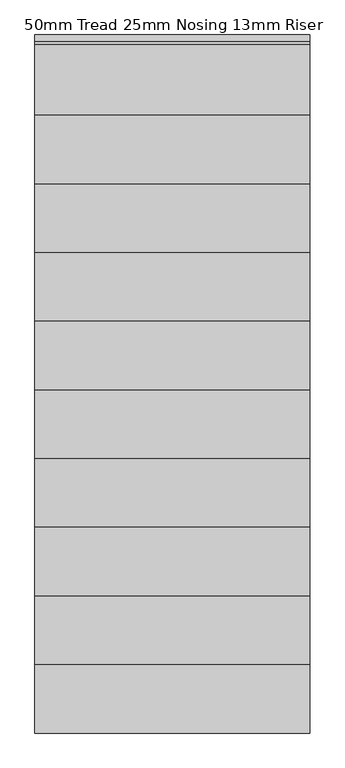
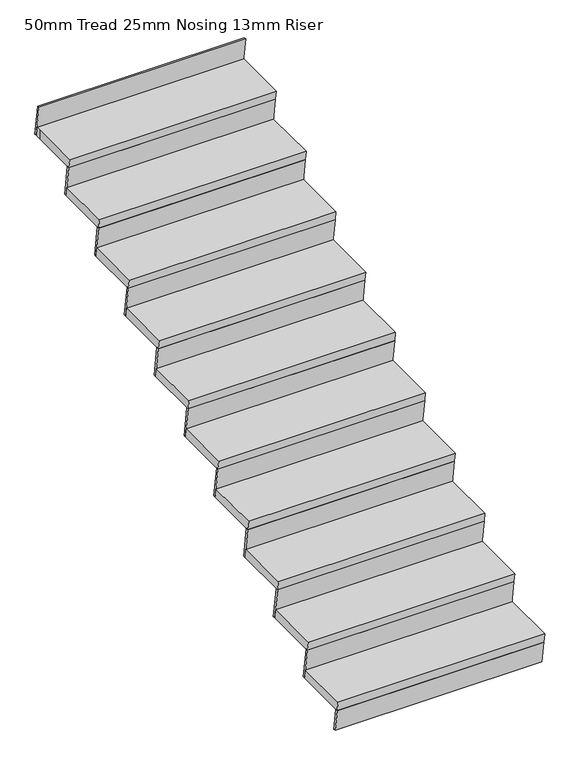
"""IFC4 building model written with IfcOpenShell, lengths in millimetres: stair flight geometry, 50mm Tread 25mm Nosing 13mm Riser."""

from ifc_helpers import new_model, si_unit, origin, place, context, project, spatial, faceted_brep, source, transform, mapped, element, save


def stair_flight_50mm_tread_25mm_nosing_13mm_riser_4ac92de0(model_context):
    return source(origin(), model_context, "Body", "Brep", [
        faceted_brep([(26061.8999097, 27148.5799804, 172.7272727), (26061.8999097, 27155.8168225, 122.7272727), (24961.8999097, 27155.8168225, 122.7272727), (24961.8999097, 27148.5799804, 172.7272727), (24961.8999097, 26848.5799804, 172.7272727), (26061.8999097, 26848.5799804, 172.7272727), (26061.8999097, 26855.8168225, 122.7272727), (24961.8999097, 26855.8168225, 122.7272727)], [[[0, 1, 2, 3]], [[3, 4, 5, 0]], [[2, 1, 6, 7]], [[4, 3, 2, 7]], [[0, 5, 6, 1]], [[5, 4, 7, 6]]]),
        faceted_brep([(26061.8999097, 26855.8168225, 122.7272727), (26061.8999097, 26873.5799804, 0.0), (26061.8999097, 26886.2102315, 0.0), (26061.8999097, 26868.4470736, 122.7272727), (24961.8999097, 26855.8168225, 122.7272727), (24961.8999097, 26868.4470736, 122.7272727), (24961.8999097, 26886.2102315, 0.0), (24961.8999097, 26873.5799804, 0.0)], [[[0, 1, 2, 3]], [[4, 5, 6, 7]], [[1, 0, 4, 7]], [[2, 1, 7, 6]], [[3, 2, 6, 5]], [[0, 3, 5, 4]]]),
        faceted_brep([(26061.8999097, 27130.8168225, 295.4545455), (26061.8999097, 27155.8168225, 122.7272727), (26061.8999097, 27168.4470736, 122.7272727), (26061.8999097, 27143.4470736, 295.4545455), (24961.8999097, 27130.8168225, 295.4545455), (24961.8999097, 27143.4470736, 295.4545455), (24961.8999097, 27168.4470736, 122.7272727), (24961.8999097, 27155.8168225, 122.7272727)], [[[0, 1, 2, 3]], [[4, 5, 6, 7]], [[1, 0, 4, 7]], [[2, 1, 7, 6]], [[3, 2, 6, 5]], [[0, 3, 5, 4]]]),
        faceted_brep([(24961.8999097, 27423.5799804, 345.4545455), (24961.8999097, 27123.5799804, 345.4545455), (26061.8999097, 27123.5799804, 345.4545455), (26061.8999097, 27423.5799804, 345.4545455), (24961.8999097, 27430.8168225, 295.4545455), (26061.8999097, 27430.8168225, 295.4545455), (26061.8999097, 27130.8168225, 295.4545455), (24961.8999097, 27130.8168225, 295.4545455)], [[[0, 1, 2, 3]], [[4, 5, 6, 7]], [[1, 0, 4, 7]], [[3, 2, 6, 5]], [[3, 5, 4, 0]], [[2, 1, 7, 6]]]),
        faceted_brep([(26061.8999097, 27405.8168225, 468.1818182), (26061.8999097, 27430.8168225, 295.4545455), (26061.8999097, 27443.4470736, 295.4545455), (26061.8999097, 27418.4470736, 468.1818182), (24961.8999097, 27405.8168225, 468.1818182), (24961.8999097, 27418.4470736, 468.1818182), (24961.8999097, 27443.4470736, 295.4545455), (24961.8999097, 27430.8168225, 295.4545455)], [[[0, 1, 2, 3]], [[4, 5, 6, 7]], [[1, 0, 4, 7]], [[2, 1, 7, 6]], [[3, 2, 6, 5]], [[0, 3, 5, 4]]]),
        faceted_brep([(24961.8999097, 27698.5799804, 518.1818182), (24961.8999097, 27398.5799804, 518.1818182), (26061.8999097, 27398.5799804, 518.1818182), (26061.8999097, 27698.5799804, 518.1818182), (24961.8999097, 27705.8168225, 468.1818182), (26061.8999097, 27705.8168225, 468.1818182), (26061.8999097, 27405.8168225, 468.1818182), (24961.8999097, 27405.8168225, 468.1818182)], [[[0, 1, 2, 3]], [[4, 5, 6, 7]], [[1, 0, 4, 7]], [[3, 2, 6, 5]], [[3, 5, 4, 0]], [[2, 1, 7, 6]]]),
        faceted_brep([(26061.8999097, 27680.8168225, 640.9090909), (26061.8999097, 27705.8168225, 468.1818182), (26061.8999097, 27718.4470736, 468.1818182), (26061.8999097, 27693.4470736, 640.9090909), (24961.8999097, 27680.8168225, 640.9090909), (24961.8999097, 27693.4470736, 640.9090909), (24961.8999097, 27718.4470736, 468.1818182), (24961.8999097, 27705.8168225, 468.1818182)], [[[0, 1, 2, 3]], [[4, 5, 6, 7]], [[1, 0, 4, 7]], [[2, 1, 7, 6]], [[3, 2, 6, 5]], [[0, 3, 5, 4]]]),
        faceted_brep([(24961.8999097, 27973.5799804, 690.9090909), (24961.8999097, 27673.5799804, 690.9090909), (26061.8999097, 27673.5799804, 690.9090909), (26061.8999097, 27973.5799804, 690.9090909), (24961.8999097, 27980.8168225, 640.9090909), (26061.8999097, 27980.8168225, 640.9090909), (26061.8999097, 27680.8168225, 640.9090909), (24961.8999097, 27680.8168225, 640.9090909)], [[[0, 1, 2, 3]], [[4, 5, 6, 7]], [[1, 0, 4, 7]], [[3, 2, 6, 5]], [[3, 5, 4, 0]], [[2, 1, 7, 6]]]),
        faceted_brep([(26061.8999097, 27955.8168225, 813.6363636), (26061.8999097, 27980.8168225, 640.9090909), (26061.8999097, 27993.4470736, 640.9090909), (26061.8999097, 27968.4470736, 813.6363636), (24961.8999097, 27955.8168225, 813.6363636), (24961.8999097, 27968.4470736, 813.6363636), (24961.8999097, 27993.4470736, 640.9090909), (24961.8999097, 27980.8168225, 640.9090909)], [[[0, 1, 2, 3]], [[4, 5, 6, 7]], [[1, 0, 4, 7]], [[2, 1, 7, 6]], [[3, 2, 6, 5]], [[0, 3, 5, 4]]]),
        faceted_brep([(24961.8999097, 28248.5799804, 863.6363636), (24961.8999097, 27948.5799804, 863.6363636), (26061.8999097, 27948.5799804, 863.6363636), (26061.8999097, 28248.5799804, 863.6363636), (24961.8999097, 28255.8168225, 813.6363636), (26061.8999097, 28255.8168225, 813.6363636), (26061.8999097, 27955.8168225, 813.6363636), (24961.8999097, 27955.8168225, 813.6363636)], [[[0, 1, 2, 3]], [[4, 5, 6, 7]], [[1, 0, 4, 7]], [[3, 2, 6, 5]], [[3, 5, 4, 0]], [[2, 1, 7, 6]]]),
        faceted_brep([(26061.8999097, 28230.8168225, 986.3636364), (26061.8999097, 28255.8168225, 813.6363636), (26061.8999097, 28268.4470736, 813.6363636), (26061.8999097, 28243.4470736, 986.3636364), (24961.8999097, 28230.8168225, 986.3636364), (24961.8999097, 28243.4470736, 986.3636364), (24961.8999097, 28268.4470736, 813.6363636), (24961.8999097, 28255.8168225, 813.6363636)], [[[0, 1, 2, 3]], [[4, 5, 6, 7]], [[1, 0, 4, 7]], [[2, 1, 7, 6]], [[3, 2, 6, 5]], [[0, 3, 5, 4]]]),
        faceted_brep([(24961.8999097, 28523.5799804, 1036.3636364), (24961.8999097, 28223.5799804, 1036.3636364), (26061.8999097, 28223.5799804, 1036.3636364), (26061.8999097, 28523.5799804, 1036.3636364), (24961.8999097, 28530.8168225, 986.3636364), (26061.8999097, 28530.8168225, 986.3636364), (26061.8999097, 28230.8168225, 986.3636364), (24961.8999097, 28230.8168225, 986.3636364)], [[[0, 1, 2, 3]], [[4, 5, 6, 7]], [[1, 0, 4, 7]], [[3, 2, 6, 5]], [[3, 5, 4, 0]], [[2, 1, 7, 6]]]),
        faceted_brep([(26061.8999097, 28505.8168225, 1159.0909091), (26061.8999097, 28530.8168225, 986.3636364), (26061.8999097, 28543.4470736, 986.3636364), (26061.8999097, 28518.4470736, 1159.0909091), (24961.8999097, 28505.8168225, 1159.0909091), (24961.8999097, 28518.4470736, 1159.0909091), (24961.8999097, 28543.4470736, 986.3636364), (24961.8999097, 28530.8168225, 986.3636364)], [[[0, 1, 2, 3]], [[4, 5, 6, 7]], [[1, 0, 4, 7]], [[2, 1, 7, 6]], [[3, 2, 6, 5]], [[0, 3, 5, 4]]]),
        faceted_brep([(24961.8999097, 28798.5799804, 1209.0909091), (24961.8999097, 28498.5799804, 1209.0909091), (26061.8999097, 28498.5799804, 1209.0909091), (26061.8999097, 28798.5799804, 1209.0909091), (24961.8999097, 28805.8168225, 1159.0909091), (26061.8999097, 28805.8168225, 1159.0909091), (26061.8999097, 28505.8168225, 1159.0909091), (24961.8999097, 28505.8168225, 1159.0909091)], [[[0, 1, 2, 3]], [[4, 5, 6, 7]], [[1, 0, 4, 7]], [[3, 2, 6, 5]], [[3, 5, 4, 0]], [[2, 1, 7, 6]]]),
        faceted_brep([(26061.8999097, 28780.8168225, 1331.8181818), (26061.8999097, 28805.8168225, 1159.0909091), (26061.8999097, 28818.4470736, 1159.0909091), (26061.8999097, 28793.4470736, 1331.8181818), (24961.8999097, 28780.8168225, 1331.8181818), (24961.8999097, 28793.4470736, 1331.8181818), (24961.8999097, 28818.4470736, 1159.0909091), (24961.8999097, 28805.8168225, 1159.0909091)], [[[0, 1, 2, 3]], [[4, 5, 6, 7]], [[1, 0, 4, 7]], [[2, 1, 7, 6]], [[3, 2, 6, 5]], [[0, 3, 5, 4]]]),
        faceted_brep([(24961.8999097, 29073.5799804, 1381.8181818), (24961.8999097, 28773.5799804, 1381.8181818), (26061.8999097, 28773.5799804, 1381.8181818), (26061.8999097, 29073.5799804, 1381.8181818), (24961.8999097, 29080.8168225, 1331.8181818), (26061.8999097, 29080.8168225, 1331.8181818), (26061.8999097, 28780.8168225, 1331.8181818), (24961.8999097, 28780.8168225, 1331.8181818)], [[[0, 1, 2, 3]], [[4, 5, 6, 7]], [[1, 0, 4, 7]], [[3, 2, 6, 5]], [[3, 5, 4, 0]], [[2, 1, 7, 6]]]),
        faceted_brep([(26061.8999097, 29055.8168225, 1504.5454545), (26061.8999097, 29080.8168225, 1331.8181818), (26061.8999097, 29093.4470736, 1331.8181818), (26061.8999097, 29068.4470736, 1504.5454545), (24961.8999097, 29055.8168225, 1504.5454545), (24961.8999097, 29068.4470736, 1504.5454545), (24961.8999097, 29093.4470736, 1331.8181818), (24961.8999097, 29080.8168225, 1331.8181818)], [[[0, 1, 2, 3]], [[4, 5, 6, 7]], [[1, 0, 4, 7]], [[2, 1, 7, 6]], [[3, 2, 6, 5]], [[0, 3, 5, 4]]]),
        faceted_brep([(24961.8999097, 29348.5799804, 1554.5454545), (24961.8999097, 29048.5799804, 1554.5454545), (26061.8999097, 29048.5799804, 1554.5454545), (26061.8999097, 29348.5799804, 1554.5454545), (24961.8999097, 29355.8168225, 1504.5454545), (26061.8999097, 29355.8168225, 1504.5454545), (26061.8999097, 29055.8168225, 1504.5454545), (24961.8999097, 29055.8168225, 1504.5454545)], [[[0, 1, 2, 3]], [[4, 5, 6, 7]], [[1, 0, 4, 7]], [[3, 2, 6, 5]], [[3, 5, 4, 0]], [[2, 1, 7, 6]]]),
        faceted_brep([(26061.8999097, 29605.8168225, 1850.0), (26061.8999097, 29630.8168225, 1677.2727273), (26061.8999097, 29643.4470736, 1677.2727273), (26061.8999097, 29618.4470736, 1850.0), (24961.8999097, 29605.8168225, 1850.0), (24961.8999097, 29618.4470736, 1850.0), (24961.8999097, 29643.4470736, 1677.2727273), (24961.8999097, 29630.8168225, 1677.2727273)], [[[0, 1, 2, 3]], [[4, 5, 6, 7]], [[1, 0, 4, 7]], [[2, 1, 7, 6]], [[3, 2, 6, 5]], [[0, 3, 5, 4]]]),
        faceted_brep([(26061.8999097, 29330.8168225, 1677.2727273), (26061.8999097, 29355.8168225, 1504.5454545), (26061.8999097, 29368.4470736, 1504.5454545), (26061.8999097, 29343.4470736, 1677.2727273), (24961.8999097, 29330.8168225, 1677.2727273), (24961.8999097, 29343.4470736, 1677.2727273), (24961.8999097, 29368.4470736, 1504.5454545), (24961.8999097, 29355.8168225, 1504.5454545)], [[[0, 1, 2, 3]], [[4, 5, 6, 7]], [[1, 0, 4, 7]], [[2, 1, 7, 6]], [[3, 2, 6, 5]], [[0, 3, 5, 4]]]),
        faceted_brep([(24961.8999097, 29623.5799804, 1727.2727273), (24961.8999097, 29598.5799804, 1727.2727273), (24961.8999097, 29323.5799804, 1727.2727273), (26061.8999097, 29323.5799804, 1727.2727273), (26061.8999097, 29623.5799804, 1727.2727273), (24961.8999097, 29630.8168225, 1677.2727273), (26061.8999097, 29630.8168225, 1677.2727273), (26061.8999097, 29330.8168225, 1677.2727273), (24961.8999097, 29330.8168225, 1677.2727273), (24961.8999097, 29598.5799804, 1677.2727273)], [[[0, 1, 2, 3, 4]], [[5, 6, 7, 8, 9]], [[1, 0, 5, 9]], [[2, 1, 9, 8]], [[4, 3, 7, 6]], [[4, 6, 5, 0]], [[3, 2, 8, 7]]]),
    ])


if __name__ == "__main__":
    model = new_model("IFC4")
    model_context = context("Model", 3, world=origin())
    ifc_project = project(units=[si_unit("LENGTHUNIT", "METRE", prefix="MILLI")], contexts=[model_context])
    site = spatial("IfcSite", under=ifc_project)
    building = spatial("IfcBuilding", under=site)
    placement = place(None, origin())
    stair_flight_50mm_tread_25mm_nosing_13mm_riser_shape = stair_flight_50mm_tread_25mm_nosing_13mm_riser_4ac92de0(model_context)
    element("IfcStairFlight", 1, ObjectType="50mm Tread 25mm Nosing 13mm Riser", at=placement, inside=building, context=model_context, shape_type="MappedRepresentation", body=[
        mapped(stair_flight_50mm_tread_25mm_nosing_13mm_riser_shape, transform((0.0, 0.0, 0.0), x_axis=(1.0, 0.0, 0.0), y_axis=(0.0, 1.0, 0.0), z_axis=(0.0, 0.0, 1.0))),
    ])
    save(model, "model.ifc")
